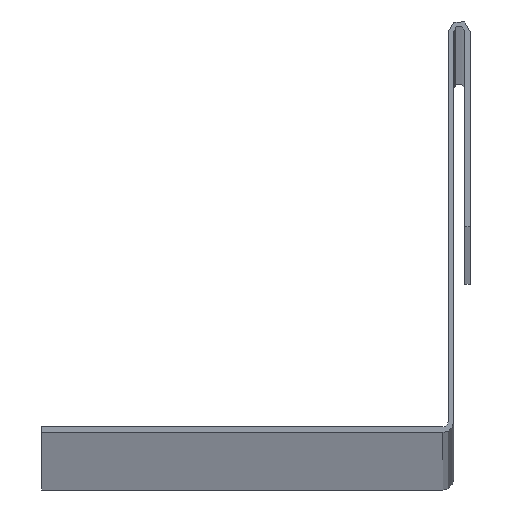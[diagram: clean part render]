
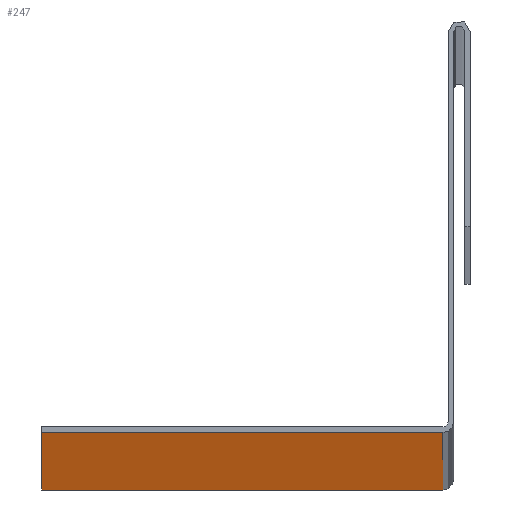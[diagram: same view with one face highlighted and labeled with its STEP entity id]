
A CAD part, top view. The second image highlights one B-rep face of the part: STEP entity #247.
In plain terms, the highlighted planar face has unit normal (0, -1, 0).
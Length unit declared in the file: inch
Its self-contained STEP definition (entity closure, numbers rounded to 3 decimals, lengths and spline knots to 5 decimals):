
#3 = PLANE ( 'NONE',  #150 ) ;
#21 = VECTOR ( 'NONE', #220, 39.37008 ) ;
#39 = DIRECTION ( 'NONE',  ( 1., 0., 0. ) ) ;
#72 = ORIENTED_EDGE ( 'NONE', *, *, #76, .T. ) ;
#76 = EDGE_CURVE ( 'NONE', #458, #245, #530, .T. ) ;
#99 = VECTOR ( 'NONE', #370, 39.37008 ) ;
#103 = DIRECTION ( 'NONE',  ( 1., 0., 0. ) ) ;
#105 = LINE ( 'NONE', #263, #21 ) ;
#150 = AXIS2_PLACEMENT_3D ( 'NONE', #537, #392, #478 ) ;
#159 = VERTEX_POINT ( 'NONE', #506 ) ;
#195 = VECTOR ( 'NONE', #39, 39.37008 ) ;
#220 = DIRECTION ( 'NONE',  ( 0., 0., -1. ) ) ;
#245 = VERTEX_POINT ( 'NONE', #265 ) ;
#247 = ADVANCED_FACE ( 'NONE', ( #547 ), #3, .F. ) ;
#254 = EDGE_CURVE ( 'NONE', #159, #245, #505, .T. ) ;
#262 = ORIENTED_EDGE ( 'NONE', *, *, #453, .F. ) ;
#263 = CARTESIAN_POINT ( 'NONE',  ( 0., 0., 120. ) ) ;
#265 = CARTESIAN_POINT ( 'NONE',  ( 1.46063, 0., 0. ) ) ;
#280 = CARTESIAN_POINT ( 'NONE',  ( 1.46063, 0., 120. ) ) ;
#352 = EDGE_CURVE ( 'NONE', #541, #458, #105, .T. ) ;
#368 = ORIENTED_EDGE ( 'NONE', *, *, #352, .T. ) ;
#370 = DIRECTION ( 'NONE',  ( 0., 0., -1. ) ) ;
#373 = EDGE_LOOP ( 'NONE', ( #72, #585, #262, #368 ) ) ;
#386 = VECTOR ( 'NONE', #103, 39.37008 ) ;
#392 = DIRECTION ( 'NONE',  ( 0., 1., 0. ) ) ;
#441 = CARTESIAN_POINT ( 'NONE',  ( 0., 0., 120. ) ) ;
#453 = EDGE_CURVE ( 'NONE', #541, #159, #524, .T. ) ;
#454 = CARTESIAN_POINT ( 'NONE',  ( 0., 0., 0. ) ) ;
#458 = VERTEX_POINT ( 'NONE', #584 ) ;
#475 = CARTESIAN_POINT ( 'NONE',  ( 0., 0., 120. ) ) ;
#478 = DIRECTION ( 'NONE',  ( 0., 0., 1. ) ) ;
#505 = LINE ( 'NONE', #280, #99 ) ;
#506 = CARTESIAN_POINT ( 'NONE',  ( 1.46063, 0., 120. ) ) ;
#524 = LINE ( 'NONE', #441, #195 ) ;
#530 = LINE ( 'NONE', #454, #386 ) ;
#537 = CARTESIAN_POINT ( 'NONE',  ( 0., 0., 120. ) ) ;
#541 = VERTEX_POINT ( 'NONE', #475 ) ;
#547 = FACE_OUTER_BOUND ( 'NONE', #373, .T. ) ;
#584 = CARTESIAN_POINT ( 'NONE',  ( 0., 0., 0. ) ) ;
#585 = ORIENTED_EDGE ( 'NONE', *, *, #254, .F. ) ;
